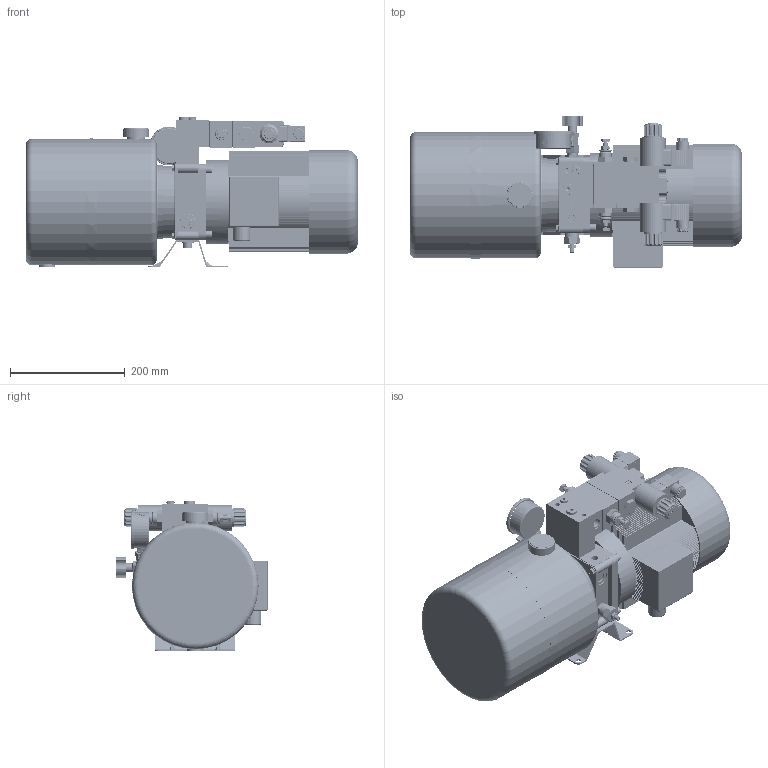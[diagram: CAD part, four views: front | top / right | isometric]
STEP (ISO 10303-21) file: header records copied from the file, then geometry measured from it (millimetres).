
FILE_DESCRIPTION(/* description */ (''),/* implementation_level */ '2;1');
FILE_NAME(/* name */ 'C:\Users\stolbov\Documents\Inventor\!Хлам\PPC-KV-SAM010-2.2-230-4.9.stp',/* time_stamp */ '2019-05-28T15:55:52+03:00',/* author */ ('stolbov'),/* organization */ (''),/* preprocessor_version */ 'ST-DEVELOPER v18',/* originating_system */ 'Autodesk Inventor 2020',/* authorisation */ '');
FILE_SCHEMA (('AUTOMOTIVE_DESIGN { 1 0 10303 214 3 1 1 }'));
Products named in the file (1): Деталь6
Bounding box: 578.62 x 263.25 x 261.7 mm (x, y, z)
Volume: 7794615 mm3; surface area: 1973072.8 mm2
Topology: 59 solids, 89 shells, 5681 faces, 15490 edges, 10391 vertices
Faces by surface type: plane 2990, cylinder 2151, cone 340, torus 122, bspline 63, sphere 15
Full cylindrical faces by diameter (mm): 0.2 x1, 1.7 x4, 2.459 x2, 2.52 x1, 2.6 x2, 3 x6, 3.5 x3, 4 x13, 4.134 x8, 4.48 x2, 4.917 x36, 5 x4, 5.2 x1, 5.5 x12, 6 x8, 6.025 x2, 6.3 x2, 6.42 x2, 6.5 x6, 6.647 x22, 7 x5, 7.5 x11, 8 x29, 8.2 x2, 8.3 x1, 8.376 x4, 8.5 x3, 8.566 x1, 8.8 x4, 9 x10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
Entity records: 206056 total; most frequent: CARTESIAN_POINT 51532, DIRECTION 32054, ORIENTED_EDGE 30926, EDGE_CURVE 15463, AXIS2_PLACEMENT_3D 11733, VERTEX_POINT 10391, LINE 8588, VECTOR 8588
